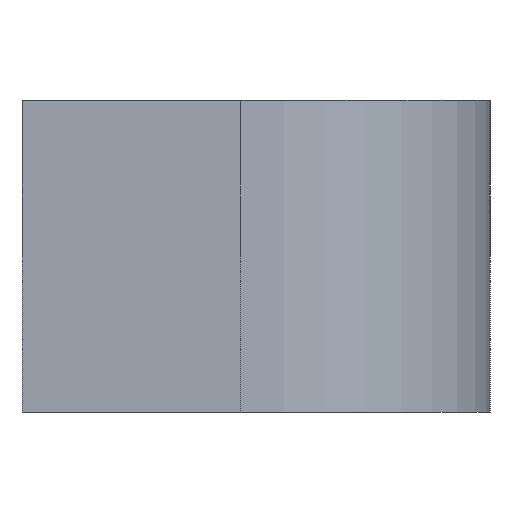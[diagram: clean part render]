
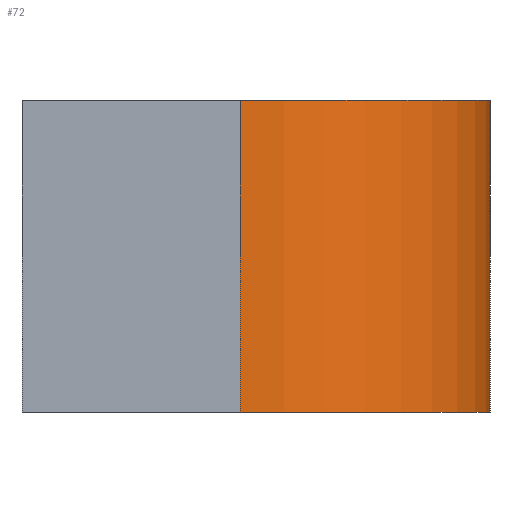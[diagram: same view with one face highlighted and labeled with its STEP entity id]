
A CAD part, left-side view. The second image highlights one B-rep face of the part: STEP entity #72.
In plain terms, the highlighted cylindrical face has radius 16 mm (diameter 32 mm), a partial arc.
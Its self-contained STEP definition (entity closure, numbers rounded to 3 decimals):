
#72 = ADVANCED_FACE( '', ( #144 ), #145, .T. );
#144 = FACE_OUTER_BOUND( '', #209, .T. );
#145 = CYLINDRICAL_SURFACE( '', #210, 16. );
#209 = EDGE_LOOP( '', ( #347, #348, #349, #350 ) );
#210 = AXIS2_PLACEMENT_3D( '', #351, #352, #353 );
#347 = ORIENTED_EDGE( '', *, *, #388, .T. );
#348 = ORIENTED_EDGE( '', *, *, #425, .F. );
#349 = ORIENTED_EDGE( '', *, *, #399, .F. );
#350 = ORIENTED_EDGE( '', *, *, #418, .T. );
#351 = CARTESIAN_POINT( '', ( 12., -14., 10. ) );
#352 = DIRECTION( '', ( 0., 0., 1. ) );
#353 = DIRECTION( '', ( -1., 0., 0. ) );
#388 = EDGE_CURVE( '', #440, #460, #462, .T. );
#399 = EDGE_CURVE( '', #476, #478, #479, .T. );
#418 = EDGE_CURVE( '', #476, #440, #504, .T. );
#425 = EDGE_CURVE( '', #478, #460, #511, .T. );
#440 = VERTEX_POINT( '', #526 );
#460 = VERTEX_POINT( '', #553 );
#462 = CIRCLE( '', #556, 16. );
#476 = VERTEX_POINT( '', #574 );
#478 = VERTEX_POINT( '', #577 );
#479 = CIRCLE( '', #578, 16. );
#504 = LINE( '', #614, #615 );
#511 = LINE( '', #624, #625 );
#526 = CARTESIAN_POINT( '', ( -4., -14., -10. ) );
#553 = CARTESIAN_POINT( '', ( 12., -30., -10. ) );
#556 = AXIS2_PLACEMENT_3D( '', #657, #658, #659 );
#574 = CARTESIAN_POINT( '', ( -4., -14., 10. ) );
#577 = CARTESIAN_POINT( '', ( 12., -30., 10. ) );
#578 = AXIS2_PLACEMENT_3D( '', #668, #669, #670 );
#614 = CARTESIAN_POINT( '', ( -4., -14., 10. ) );
#615 = VECTOR( '', #688, 1000. );
#624 = CARTESIAN_POINT( '', ( 12., -30., 10. ) );
#625 = VECTOR( '', #691, 1000. );
#657 = CARTESIAN_POINT( '', ( 12., -14., -10. ) );
#658 = DIRECTION( '', ( 0., 0., 1. ) );
#659 = DIRECTION( '', ( 1., 0., 0. ) );
#668 = CARTESIAN_POINT( '', ( 12., -14., 10. ) );
#669 = DIRECTION( '', ( 0., 0., 1. ) );
#670 = DIRECTION( '', ( 1., 0., 0. ) );
#688 = DIRECTION( '', ( 0., 0., -1. ) );
#691 = DIRECTION( '', ( 0., 0., -1. ) );
